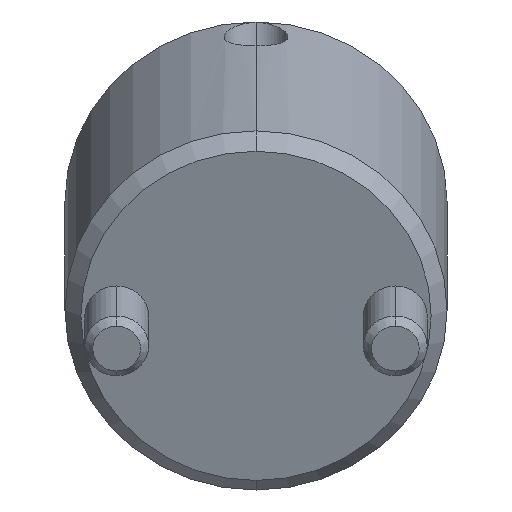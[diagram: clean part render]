
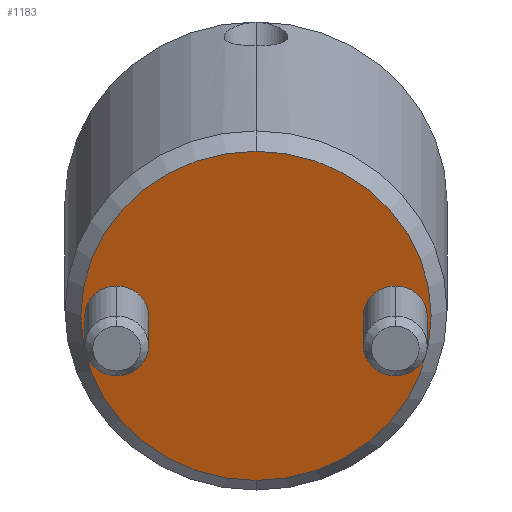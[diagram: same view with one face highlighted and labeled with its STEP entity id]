
A CAD part, front view. The second image highlights one B-rep face of the part: STEP entity #1183.
In plain terms, the highlighted planar face has unit normal (0, -0.94, -0.342) as drawn and (0, 0, -1) by its records, which use the part's own axes.
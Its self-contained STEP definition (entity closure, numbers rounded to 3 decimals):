
#45 = CARTESIAN_POINT ( 'NONE',  ( 11., 0., 0. ) ) ;
#130 = CARTESIAN_POINT ( 'NONE',  ( 0., 0., 0. ) ) ;
#175 = FACE_BOUND ( 'NONE', #1134, .T. ) ;
#208 = EDGE_LOOP ( 'NONE', ( #1102, #459 ) ) ;
#216 = FACE_OUTER_BOUND ( 'NONE', #334, .T. ) ;
#312 = EDGE_CURVE ( 'NONE', #991, #878, #852, .T. ) ;
#334 = EDGE_LOOP ( 'NONE', ( #644, #525 ) ) ;
#360 = AXIS2_PLACEMENT_3D ( 'NONE', #130, #1038, #657 ) ;
#370 = VERTEX_POINT ( 'NONE', #888 ) ;
#380 = CARTESIAN_POINT ( 'NONE',  ( 0., -8.75, 0. ) ) ;
#387 = CIRCLE ( 'NONE', #1633, 2. ) ;
#399 = EDGE_CURVE ( 'NONE', #951, #1597, #886, .T. ) ;
#402 = ORIENTED_EDGE ( 'NONE', *, *, #1353, .F. ) ;
#443 = CARTESIAN_POINT ( 'NONE',  ( -2., 8.75, 0. ) ) ;
#459 = ORIENTED_EDGE ( 'NONE', *, *, #399, .F. ) ;
#514 = CARTESIAN_POINT ( 'NONE',  ( 0., 8.75, 0. ) ) ;
#525 = ORIENTED_EDGE ( 'NONE', *, *, #767, .F. ) ;
#597 = EDGE_CURVE ( 'NONE', #1597, #951, #1046, .T. ) ;
#632 = DIRECTION ( 'NONE',  ( 0., 0., -1. ) ) ;
#637 = CARTESIAN_POINT ( 'NONE',  ( 0., -8.75, 0. ) ) ;
#643 = DIRECTION ( 'NONE',  ( 0., 0., -1. ) ) ;
#644 = ORIENTED_EDGE ( 'NONE', *, *, #659, .F. ) ;
#657 = DIRECTION ( 'NONE',  ( 1., 0., 0. ) ) ;
#659 = EDGE_CURVE ( 'NONE', #974, #370, #925, .T. ) ;
#679 = DIRECTION ( 'NONE',  ( 1., 0., 0. ) ) ;
#767 = EDGE_CURVE ( 'NONE', #370, #974, #1299, .T. ) ;
#802 = DIRECTION ( 'NONE',  ( 1., 0., 0. ) ) ;
#852 = CIRCLE ( 'NONE', #1570, 2. ) ;
#866 = AXIS2_PLACEMENT_3D ( 'NONE', #1320, #1547, #679 ) ;
#872 = CARTESIAN_POINT ( 'NONE',  ( 2., -8.75, 0. ) ) ;
#878 = VERTEX_POINT ( 'NONE', #933 ) ;
#886 = CIRCLE ( 'NONE', #1436, 2. ) ;
#888 = CARTESIAN_POINT ( 'NONE',  ( -11., 0., 0. ) ) ;
#925 = CIRCLE ( 'NONE', #360, 11. ) ;
#927 = PLANE ( 'NONE',  #866 ) ;
#933 = CARTESIAN_POINT ( 'NONE',  ( 2., 8.75, 0. ) ) ;
#951 = VERTEX_POINT ( 'NONE', #872 ) ;
#974 = VERTEX_POINT ( 'NONE', #45 ) ;
#991 = VERTEX_POINT ( 'NONE', #443 ) ;
#1019 = CARTESIAN_POINT ( 'NONE',  ( -2., -8.75, 0. ) ) ;
#1021 = DIRECTION ( 'NONE',  ( -1., 0., 0. ) ) ;
#1038 = DIRECTION ( 'NONE',  ( 0., 0., 1. ) ) ;
#1046 = CIRCLE ( 'NONE', #1340, 2. ) ;
#1102 = ORIENTED_EDGE ( 'NONE', *, *, #597, .F. ) ;
#1134 = EDGE_LOOP ( 'NONE', ( #1419, #402 ) ) ;
#1183 = ADVANCED_FACE ( 'NONE', ( #175, #1440, #216 ), #927, .F. ) ;
#1261 = DIRECTION ( 'NONE',  ( -1., 0., 0. ) ) ;
#1281 = DIRECTION ( 'NONE',  ( 0., 0., -1. ) ) ;
#1297 = AXIS2_PLACEMENT_3D ( 'NONE', #1306, #1554, #802 ) ;
#1299 = CIRCLE ( 'NONE', #1297, 11. ) ;
#1306 = CARTESIAN_POINT ( 'NONE',  ( 0., 0., 0. ) ) ;
#1320 = CARTESIAN_POINT ( 'NONE',  ( 0., 0., 0. ) ) ;
#1340 = AXIS2_PLACEMENT_3D ( 'NONE', #637, #632, #1529 ) ;
#1353 = EDGE_CURVE ( 'NONE', #878, #991, #387, .T. ) ;
#1419 = ORIENTED_EDGE ( 'NONE', *, *, #312, .F. ) ;
#1436 = AXIS2_PLACEMENT_3D ( 'NONE', #380, #1281, #1261 ) ;
#1440 = FACE_BOUND ( 'NONE', #208, .T. ) ;
#1514 = DIRECTION ( 'NONE',  ( 0., 0., -1. ) ) ;
#1519 = DIRECTION ( 'NONE',  ( -1., 0., 0. ) ) ;
#1529 = DIRECTION ( 'NONE',  ( -1., 0., 0. ) ) ;
#1532 = CARTESIAN_POINT ( 'NONE',  ( 0., 8.75, 0. ) ) ;
#1547 = DIRECTION ( 'NONE',  ( 0., 0., 1. ) ) ;
#1554 = DIRECTION ( 'NONE',  ( 0., 0., 1. ) ) ;
#1570 = AXIS2_PLACEMENT_3D ( 'NONE', #514, #643, #1021 ) ;
#1597 = VERTEX_POINT ( 'NONE', #1019 ) ;
#1633 = AXIS2_PLACEMENT_3D ( 'NONE', #1532, #1514, #1519 ) ;
